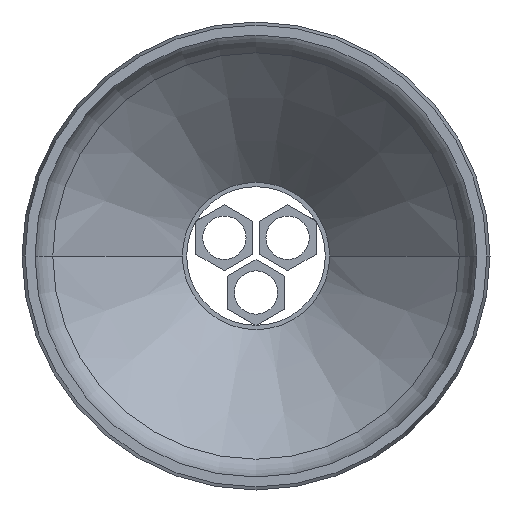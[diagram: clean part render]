
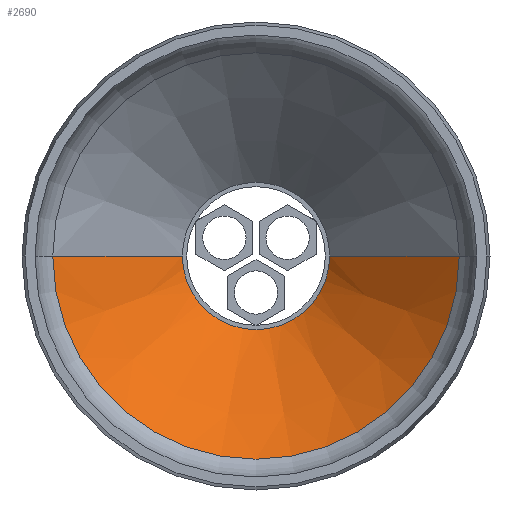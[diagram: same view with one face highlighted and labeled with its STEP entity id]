
A CAD part, front view. The second image highlights one B-rep face of the part: STEP entity #2690.
In plain terms, the highlighted conical face has half-angle 45 degrees and reference radius 8.5 mm.
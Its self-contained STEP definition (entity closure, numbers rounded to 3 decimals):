
#540=CARTESIAN_POINT('',(-211.476,26.421,
0.));
#550=VERTEX_POINT('',#540);
#710=CARTESIAN_POINT('',(-194.476,26.421,0.));
#720=VERTEX_POINT('',#710);
#750=CARTESIAN_POINT('',(-202.976,26.421,0.));
#760=DIRECTION('',(0.,-1.,0.));
#770=DIRECTION('',(1.,0.,0.));
#780=AXIS2_PLACEMENT_3D('',#750,#760,#770);
#790=CIRCLE('',#780,8.5);
#800=EDGE_CURVE('',#550,#720,#790,.T.);
#2380=CARTESIAN_POINT('',(-202.976,26.421,0.));
#2390=DIRECTION('',(0.,-1.,0.));
#2400=DIRECTION('',(-1.,0.,0.));
#2410=AXIS2_PLACEMENT_3D('',#2380,#2390,#2400);
#2420=CONICAL_SURFACE('',#2410,8.5,0.785);
#2430=CARTESIAN_POINT('',(-194.476,26.421,
0.));
#2440=DIRECTION('',(0.707,-0.707,
0.));
#2450=VECTOR('',#2440,1.);
#2460=LINE('',#2430,#2450);
#2470=CARTESIAN_POINT('',(-179.527,11.471,0.));
#2480=VERTEX_POINT('',#2470);
#2490=EDGE_CURVE('',#720,#2480,#2460,.T.);
#2500=ORIENTED_EDGE('',*,*,#2490,.F.);
#2510=CARTESIAN_POINT('',(-202.976,11.471,0.));
#2520=DIRECTION('',(0.,-1.,0.));
#2530=DIRECTION('',(-1.,0.,0.));
#2540=AXIS2_PLACEMENT_3D('',#2510,#2520,#2530);
#2550=CIRCLE('',#2540,23.45);
#2560=CARTESIAN_POINT('',(-226.426,11.471,0.));
#2570=VERTEX_POINT('',#2560);
#2580=EDGE_CURVE('',#2570,#2480,#2550,.T.);
#2590=ORIENTED_EDGE('',*,*,#2580,.T.);
#2600=CARTESIAN_POINT('',(-211.476,26.421,0.));
#2610=DIRECTION('',(-0.707,-0.707,0.));
#2620=VECTOR('',#2610,1.);
#2630=LINE('',#2600,#2620);
#2640=EDGE_CURVE('',#550,#2570,#2630,.T.);
#2650=ORIENTED_EDGE('',*,*,#2640,.T.);
#2660=ORIENTED_EDGE('',*,*,#800,.F.);
#2670=EDGE_LOOP('',(#2660,#2650,#2590,#2500));
#2680=FACE_OUTER_BOUND('',#2670,.T.);
#2690=ADVANCED_FACE('',(#2680),#2420,.F.);
